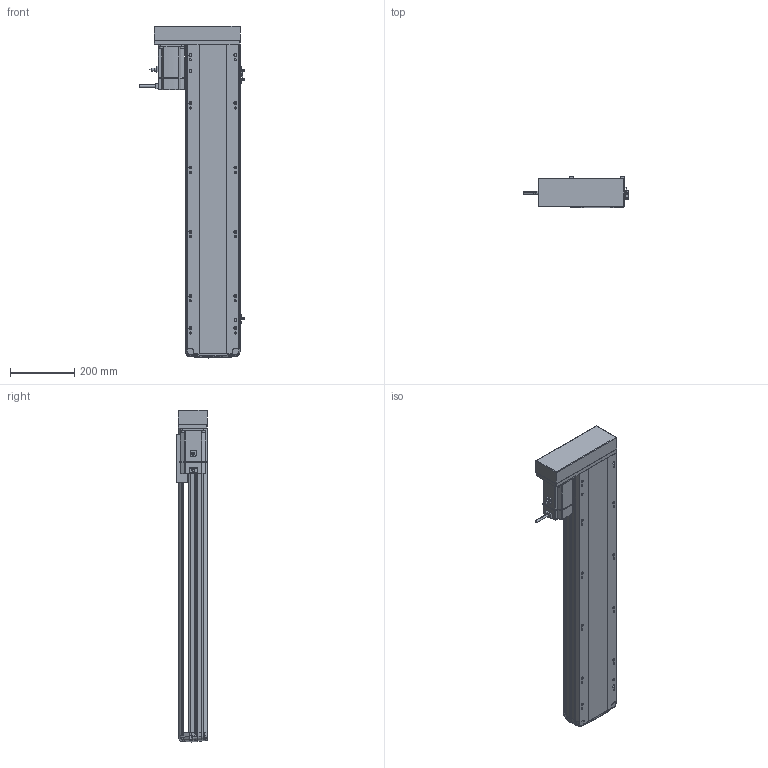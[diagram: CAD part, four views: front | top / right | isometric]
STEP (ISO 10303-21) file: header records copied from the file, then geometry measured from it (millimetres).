
FILE_DESCRIPTION (( 'STEP AP214' ), '1' );
FILE_NAME ('RTH17-XX-750-R-M75-C4.STEP', '2025-10-24T10:17:27', ( '' ), ( '' ), 'SwSTEP 2.0', 'SolidWorks 2018', '' );
FILE_SCHEMA (( 'AUTOMOTIVE_DESIGN' ));
Length unit declared in the file: millimetre
Products named in the file (10): N_OMRON EE-SX672 換覜ん^RTH17-XX-XX-R-M75-C4ㄗ源最宒ㄘ; N_RTH17-E-004丝杆螺母连接座^RTH17-XX-XX-R-M75-C4（方程式）; N_RTH-L-012 感应片(外置)^RTH17-XX-XX-R-M75-C4（方程式）; N_RTH17-M-007上盖^RTH17-XX-XX-R-M75-C4（方程式）; N_M75^RTH17-XX-XX-R-M75-C4（方程式）; RTH17-XX-750-R-M75-C4; N_RTH17-L-008-P75电机安装板左转折^RTH17-XX-XX-R-M75-C4（方程式）; N_RTH17-L-018盖子^RTH17-XX-XX-R-M75-C4（方程式）; N_RTH17-M-011底座^RTH17-XX-XX-R-M75-C4（方程式）; N_RTH17-GY-001P^RTH17-XX-XX-R-M75-C4（方程式）
Assembly tree (11 placements, depth 2):
  RTH17-XX-750-R-M75-C4
    N_RTH17-M-011底座^RTH17-XX-XX-R-M75-C4（方程式）
    N_RTH17-M-007上盖^RTH17-XX-XX-R-M75-C4（方程式）
    N_M75^RTH17-XX-XX-R-M75-C4（方程式）
    N_OMRON EE-SX672 換覜ん^RTH17-XX-XX-R-M75-C4ㄗ源最宒ㄘ  x3
    N_RTH-L-012 感应片(外置)^RTH17-XX-XX-R-M75-C4（方程式）
    N_RTH17-L-008-P75电机安装板左转折^RTH17-XX-XX-R-M75-C4（方程式）
    N_RTH17-L-018盖子^RTH17-XX-XX-R-M75-C4（方程式）
    N_RTH17-E-004丝杆螺母连接座^RTH17-XX-XX-R-M75-C4（方程式）
    N_RTH17-GY-001P^RTH17-XX-XX-R-M75-C4（方程式）
Bounding box: 326.2 x 97 x 1032.99 mm (x, y, z)
Volume: 9524339.2 mm3; surface area: 1195170.8 mm2
Topology: 13 solids, 15 shells, 1757 faces, 4835 edges, 3130 vertices
Faces by surface type: plane 833, cylinder 510, bspline 377, cone 28, torus 9
Entity records: 51269 total; most frequent: CARTESIAN_POINT 20495, ORIENTED_EDGE 6694, DIRECTION 5563, EDGE_CURVE 3351, VERTEX_POINT 2166, AXIS2_PLACEMENT_3D 1873, LINE 1817, VECTOR 1817
